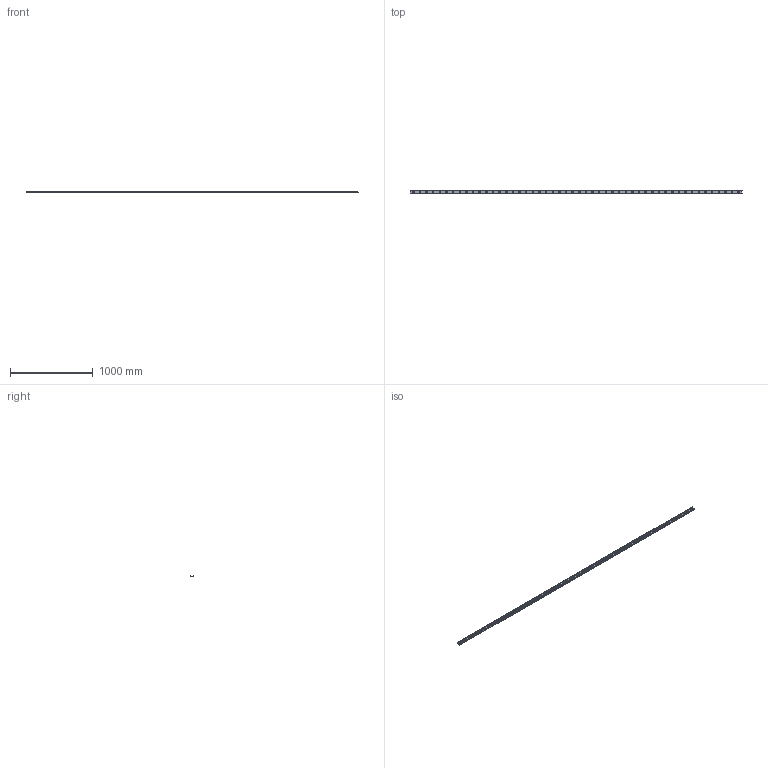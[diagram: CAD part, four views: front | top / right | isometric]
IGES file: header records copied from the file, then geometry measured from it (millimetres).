
Start section: SolidWorks IGES file using analytic representation for surfaces
Global section: file name: C:\Users\IanO\Desktop\43\L1943.ULC43_v2_20180121_IGES\L1943.ULC43-4000.igs; native system: SolidWorks 2017; preprocessor: SolidWorks 2017; author: IanO; date: 190121.085458; units: millimetre
Bounding box: 4000 x 43 x 21 mm (x, y, z)
Surface area: 627061.5 mm2 (no closed solid volume)
Topology: 0 solids, 0 shells, 276 faces, 7494 edges, 7494 vertices
Faces by surface type: revolution 213, bspline 63
